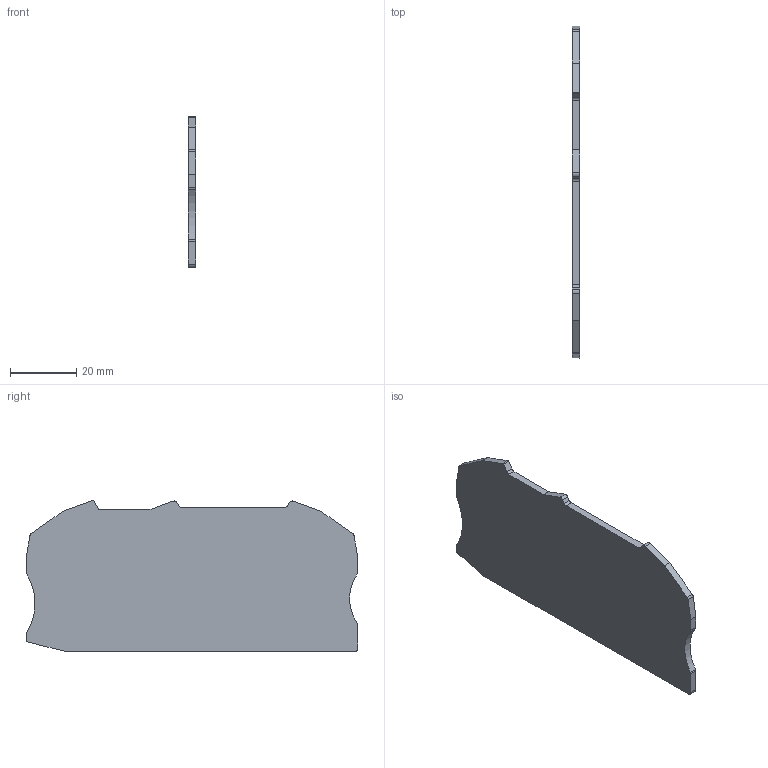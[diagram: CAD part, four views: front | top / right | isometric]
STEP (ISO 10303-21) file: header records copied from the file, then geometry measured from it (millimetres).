
FILE_DESCRIPTION( ('This file contains a STEP AP42 implementation' ,'as created by ZW3D STEP Interface translator.') ,'2;1' );
FILE_NAME( 'D-RPV16-TWIN傷啣耀倰.stp' ,'221111.1047 4', (''), ('ZWCAD Software Co.'), 'Version 1.0', 'ZW3D to STEP translator', '' );
FILE_SCHEMA(('AUTOMOTIVE_DESIGN { 1 0 10303 214 1 1 1 1 }'));
Length unit declared in the file: millimetre
Products named in the file (2): 0; D-RPV16-TWIN
Bounding box: 2.2 x 100.24 x 45.6 mm (x, y, z)
Volume: 9180.8 mm3; surface area: 8955.4 mm2
Topology: 1 solids, 1 shells, 34 faces, 96 edges, 64 vertices
Faces by surface type: plane 21, cylinder 13
Entity records: 1170 total; most frequent: CARTESIAN_POINT 195, DIRECTION 192, ORIENTED_EDGE 192, EDGE_CURVE 96, VECTOR 70, LINE 70, VERTEX_POINT 64, AXIS2_PLACEMENT_3D 61
